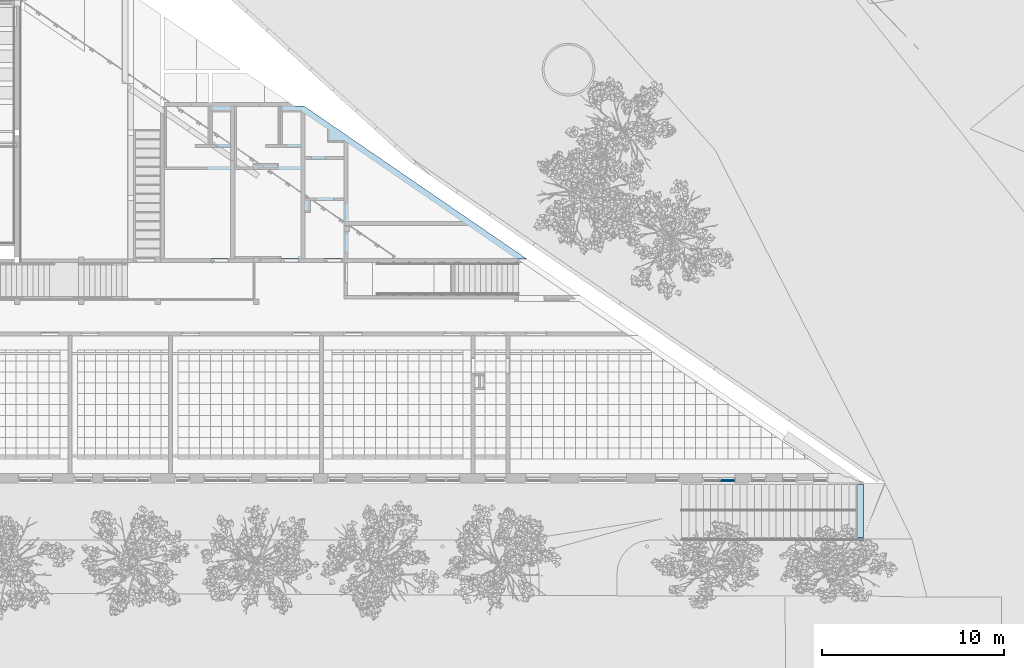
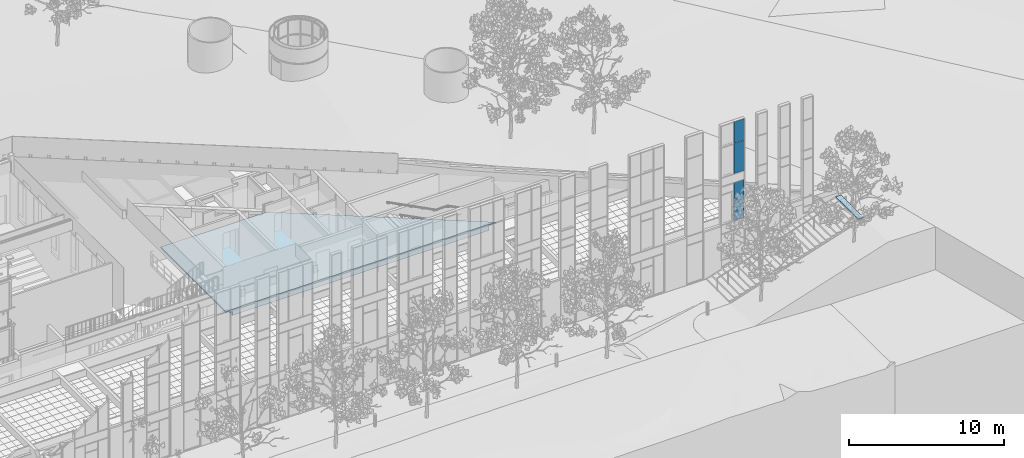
# One storey, part 106 of 246: 3 plates, 2 slabs, 1 element without a shape of its own.
"""IFC2X3 building model written with IfcOpenShell, lengths in millimetres."""

from ifc_helpers import new_model, entity, si_unit, converted_unit, derived_unit, money_unit, direction, frame, origin_with_axes, place, context, subcontext, project, spatial, faceted_brep, material, material_list, type_object, element, aggregate, save


model = new_model("IFC2X3")

# Units and contexts
model_context = context("Model", 3, precision=0.01, world=origin_with_axes(), true_north=direction((0.0, 1.0)))
body_context = subcontext(model_context, "Body", "Model", "MODEL_VIEW")
ifc_project = project(units=[si_unit("LENGTHUNIT", "METRE", prefix="MILLI"), si_unit("AREAUNIT", "SQUARE_METRE"), si_unit("VOLUMEUNIT", "CUBIC_METRE"), converted_unit("PLANEANGLEUNIT", "DEGREE", entity("IfcPlaneAngleMeasure", 0.0174532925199), si_unit("PLANEANGLEUNIT", "RADIAN"), dimensions=[0, 0, 0, 0, 0, 0, 0]), si_unit("SOLIDANGLEUNIT", "STERADIAN"), money_unit("EUR"), converted_unit("TIMEUNIT", "Year", entity("IfcTimeMeasure", 31556926.0), si_unit("TIMEUNIT", "SECOND"), dimensions=[0, 0, 1, 0, 0, 0, 0]), si_unit("MASSUNIT", "GRAM", prefix="KILO"), si_unit("THERMODYNAMICTEMPERATUREUNIT", "DEGREE_CELSIUS"), si_unit("LUMINOUSINTENSITYUNIT", "LUMEN"), si_unit("ENERGYUNIT", "JOULE", prefix="MEGA"), derived_unit("THERMALCONDUCTANCEUNIT", [(si_unit("POWERUNIT", "WATT"), 1), (si_unit("LENGTHUNIT", "METRE"), -1), (si_unit("THERMODYNAMICTEMPERATUREUNIT", "KELVIN"), -1)]), derived_unit("SPECIFICHEATCAPACITYUNIT", [(si_unit("ENERGYUNIT", "JOULE"), 1), (si_unit("MASSUNIT", "GRAM", prefix="KILO"), -1), (si_unit("THERMODYNAMICTEMPERATUREUNIT", "KELVIN"), -1)]), derived_unit("MASSDENSITYUNIT", [(si_unit("MASSUNIT", "GRAM", prefix="KILO"), 1), (si_unit("VOLUMEUNIT", "CUBIC_METRE"), -1)])], contexts=[model_context])

# Site, building, storey
site_placement = place(None, origin_with_axes())
site = spatial("IfcSite", under=ifc_project, at=site_placement, Name="L.Koidula tn 11b", CompositionType="ELEMENT")
building_placement = place(site_placement, origin_with_axes())
building = spatial("IfcBuilding", under=site, at=building_placement, Name="Rakvere Riigigümnaasium", CompositionType="ELEMENT")
storey_placement = place(building_placement, origin_with_axes())
storey = spatial("IfcBuildingStorey", under=building, at=storey_placement, Name="1.korrus 0,00", CompositionType="ELEMENT", Elevation=0.0)

# Curtain wall, plates
curtain_wall_type = type_object("IfcCurtainWallType", Name="Curtain Wall Type", PredefinedType="NOTDEFINED")
curtain_wall_placement = place(storey_placement, frame((96030.936158, 5111.45334637, 394.620798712), z_axis=(0.0, 0.0, 1.0), x_axis=(1.0, 0.0, 0.0)))
curtain_wall = element("IfcCurtainWall", 1, at=curtain_wall_placement, inside=storey, type_object=curtain_wall_type, Name="KLF-05-2C")
ifc_material_1 = material(Name="Klaaspakett 3x")
plate_type_1 = type_object("IfcPlateType", Name="Distinct Panel 776 x 1701 x 65", PredefinedType="CURTAIN_PANEL")
plate_1_placement = place(curtain_wall_placement, frame((1056.56395423, 0.0, 10320.1896012), z_axis=(0.0, 0.0, 1.0), x_axis=(-1.0, 0.0, 0.0)))
plate_1 = element("IfcPlate", 2, at=plate_1_placement, type_object=plate_type_1, material=ifc_material_1, Name="KLF-05-2C-Klaasid", ObjectType="CURTAIN_PANEL", context=body_context, shape_type="Brep", body=[
    faceted_brep([(-375.499878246, -32.5, 837.810415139), (400.500002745, -32.5, 837.810415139), (400.500002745, 32.5, 837.810415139), (-375.499878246, 32.5, 837.810415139), (-375.500112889, -32.5, -862.810417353), (400.500002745, -32.5, -862.810417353), (400.500002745, 32.5, -862.810417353), (-375.500112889, 32.5, -862.810417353)], [[[0, 1, 2, 3]], [[0, 4, 5, 1]], [[1, 5, 6, 2]], [[3, 2, 6, 7]], [[4, 0, 3, 7]], [[5, 4, 7, 6]]]),
])
ifc_material_2 = material(Name="Klaaspakett 3x ribikardinatega")
plate_type_2 = type_object("IfcPlateType", Name="776 x 628 x 54", PredefinedType="CURTAIN_PANEL")
plate_2_placement = place(curtain_wall_placement, frame((1056.56401141, 0.0, 5147.04585986), z_axis=(0.0, 0.0, 1.0), x_axis=(-1.0, 0.0, 0.0)))
plate_2 = element("IfcPlate", 3, at=plate_2_placement, type_object=plate_type_2, material=ifc_material_2, Name="KLF-63", ObjectType="CURTAIN_PANEL", context=body_context, shape_type="Brep", body=[
    faceted_brep([(-375.500036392, -27.0, 1206.33331992), (400.500037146, -27.0, 1206.33331992), (400.500037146, 27.0, 1206.33331992), (-375.500036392, 27.0, 1206.33331992), (-375.500036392, -27.0, 578.333351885), (-375.500036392, -27.0, -1784.66665326), (400.500037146, -27.0, -1784.66665326), (400.500037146, -27.0, 578.333351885), (400.500037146, 27.0, 578.333351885), (400.500037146, 27.0, -1784.66665326), (-375.500036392, 27.0, -1784.66665326), (-375.500036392, 27.0, 578.333351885)], [[[0, 1, 2, 3]], [[0, 4, 5, 6, 7, 1]], [[1, 7, 8, 2]], [[3, 2, 8, 9, 10, 11]], [[4, 0, 3, 11]], [[5, 4, 11, 10]], [[6, 5, 10, 9]], [[7, 6, 9, 8]]]),
])
plate_type_3 = type_object("IfcPlateType", Name="Distinct Panel 776 x 828 x 65", PredefinedType="CURTAIN_PANEL")
plate_3_placement = place(curtain_wall_placement, frame((974.064003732, 0.0, 8327.37919319), z_axis=(0.0, 0.0, 1.0), x_axis=(-1.0, 0.0, 0.0)))
plate_3 = element("IfcPlate", 4, at=plate_3_placement, type_object=plate_type_3, material=ifc_material_1, Name="KLF-05-2C-Klaasid", ObjectType="CURTAIN_PANEL", context=body_context, shape_type="Brep", body=[
    faceted_brep([(-458.00008341, -32.5, 1106.00000149), (318.000044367, -32.5, 1106.00000149), (318.000044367, 32.5, 1106.00000149), (-458.00008341, 32.5, 1106.00000149), (-458.00004802, -32.5, -1245.00000149), (318.000044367, -32.5, -1245.00000149), (318.000044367, -32.5, 277.999998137), (318.000044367, 32.5, 277.999998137), (318.000044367, 32.5, -1245.00000149), (-458.00004802, 32.5, -1245.00000149)], [[[0, 1, 2, 3]], [[0, 4, 5, 6, 1]], [[1, 6, 7, 2]], [[3, 2, 7, 8, 9]], [[4, 0, 3, 9]], [[5, 4, 9, 8]], [[6, 5, 8, 7]]]),
])
aggregate(curtain_wall, [plate_2, plate_3, plate_1])

# Slabs
ifc_material_3 = material(Name="Polükarbamiid-2")
ifc_material_4 = material(Name="Betoon - pealevalu")
ifc_material_5 = material(Name="Betoon element / plaat")
ifc_material_6 = material(Name="Soojustus - EPS")
ifc_material_7 = material(Name="Killustik")
ifc_material_list = material_list([ifc_material_3, ifc_material_4, ifc_material_5, ifc_material_6, ifc_material_6, ifc_material_7])
slab_type_1 = type_object("IfcSlabType", Name="PP-01-2 490", PredefinedType="NOTDEFINED")
slab_1_placement = place(storey_placement, frame((65899.9980729, 25697.9371768, 0.0), z_axis=(0.0, 0.0, 1.0), x_axis=(1.0, 0.0, 0.0)))
element("IfcSlab", 5, at=slab_1_placement, inside=storey, type_object=slab_type_1, material=ifc_material_list, Name="Põrand pinnasel", PredefinedType="NOTDEFINED", context=body_context, shape_type="Brep", body=[
    faceted_brep([(0.0, 0.0, 0.0), (0.0, -8387.48165424, 0.0), (19598.7078425, -8387.48165424, 0.0), (9545.09329946, -1491.93802509, 0.0), (7369.85094432, 0.0, 0.0), (0.0, -8387.48165424, -5.0), (0.0, 0.0, -5.0), (19598.7078425, -8387.48165424, -5.0), (9545.09329946, -1491.93802509, -5.0), (7369.85094432, 0.0, -5.0)], [[[0, 1, 2, 3, 4]], [[5, 1, 0, 6]], [[1, 5, 7, 2]], [[8, 3, 2, 7]], [[8, 9, 4, 3]], [[9, 6, 0, 4]], [[5, 6, 9, 8, 7]]]),
    faceted_brep([(0.0, 0.0, -5.0), (0.0, -8387.48165424, -5.0), (19598.7078425, -8387.48165424, -5.0), (9545.09329946, -1491.93802509, -5.0), (7369.85094432, 0.0, -5.0), (0.0, -8387.48165424, -10.0), (0.0, 0.0, -10.0), (19598.7078425, -8387.48165424, -10.0), (9545.09329946, -1491.93802509, -10.0), (7369.85094432, 0.0, -10.0)], [[[0, 1, 2, 3, 4]], [[5, 1, 0, 6]], [[1, 5, 7, 2]], [[8, 3, 2, 7]], [[8, 9, 4, 3]], [[9, 6, 0, 4]], [[5, 6, 9, 8, 7]]]),
    faceted_brep([(0.0, -8387.48165424, -10.0), (0.0, 0.0, -10.0), (0.0, 0.0, -90.0), (0.0, -8387.48165424, -90.0), (20129.0721042, -8387.48165424, -10.0), (7900.23796823, 0.0, -10.0), (7900.23796823, 0.0, -90.0), (20129.0721042, -8387.48165424, -90.0)], [[[0, 1, 2, 3]], [[0, 4, 5, 1]], [[1, 5, 6, 2]], [[6, 7, 3, 2]], [[4, 0, 3, 7]], [[5, 4, 7, 6]]]),
    faceted_brep([(0.0, -8387.48165424, -99.9999999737), (0.0, -99.0000021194, -99.9999999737), (300.0, -99.0000021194, -99.9999999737), (300.0, -8387.48165424, -99.9999999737), (0.0, -8387.48165424, -90.0), (0.0, -99.0000021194, -90.0), (7514.19130075, -99.0000021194, -90.0), (7514.19130075, -99.0000021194, -190.0), (300.0, -99.0000021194, -190.0), (300.0, -8387.48165424, -190.0), (19598.7078425, -8387.48165424, -190.0), (19598.7078425, -8387.48165424, -90.0), (9545.08631277, -1491.94799995, -90.0), (9545.08631277, -1491.94799995, -190.0)], [[[0, 1, 2, 3]], [[1, 0, 4, 5]], [[2, 1, 5, 6, 7, 8]], [[2, 8, 9, 3]], [[4, 0, 3, 9, 10, 11]], [[5, 4, 11, 12, 6]], [[6, 12, 13, 7]], [[9, 8, 7, 13, 10]], [[13, 12, 11, 10]]]),
    faceted_brep([(500.0, -8387.48165424, -290.0), (500.0, -299.000002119, -290.0), (7805.78797416, -299.000002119, -290.0), (9545.08631277, -1491.94799995, -290.0), (19598.7078425, -8387.48165424, -290.0), (500.0, -8387.48165424, -190.0), (500.0, -299.000002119, -190.0), (7805.78797416, -299.000002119, -190.0), (9545.09329946, -1491.93802509, -190.0), (19598.7078425, -8387.48165424, -190.0)], [[[0, 1, 2, 3, 4]], [[0, 5, 6, 1]], [[6, 7, 2, 1]], [[8, 3, 2, 7]], [[3, 8, 9, 4]], [[5, 0, 4, 9]], [[6, 5, 9, 8, 7]]]),
    faceted_brep([(500.0, -8387.48165424, -490.0), (500.0, -299.000002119, -490.0), (7805.78797416, -299.000002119, -490.0), (9545.08631277, -1491.94799995, -490.0), (19598.7078425, -8387.48165424, -490.0), (500.0, -8387.48165424, -290.0), (500.0, -299.000002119, -290.0), (7805.78797416, -299.000002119, -290.0), (9545.09329946, -1491.93802509, -290.0), (19598.7078425, -8387.48165424, -290.0)], [[[0, 1, 2, 3, 4]], [[0, 5, 6, 1]], [[6, 7, 2, 1]], [[8, 3, 2, 7]], [[3, 8, 9, 4]], [[5, 0, 4, 9]], [[6, 5, 9, 8, 7]]]),
])
ifc_material_8 = material(Name="Sillutiskivi")
slab_type_2 = type_object("IfcSlabType", Name="Sillutiskivi 80", PredefinedType="NOTDEFINED")
slab_2_placement = place(storey_placement, frame((104152.40065, 4886.05843431, 3180.0), z_axis=(0.0, 0.0, 1.0), x_axis=(1.0, 0.0, 0.0)))
element("IfcSlab", 6, at=slab_2_placement, inside=storey, type_object=slab_type_2, material=ifc_material_8, Name="Põrand pinnasel", PredefinedType="NOTDEFINED", context=body_context, shape_type="Brep", body=[
    faceted_brep([(80.0, 0.0, -80.0), (80.0, 0.0, -75.0), (5.00000000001, 0.0, -75.0), (5.00000000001, 0.0, 0.0), (400.0, 0.0, 0.0), (400.0, 0.0, -80.0), (80.0, -2899.60289544, -80.0), (80.0, -2899.60289544, -75.0), (5.00000000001, -2899.60289544, -75.0), (5.00000000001, -2899.60289544, 0.0), (400.0, -2899.60289544, 0.0), (400.0, -2899.60289544, -80.0)], [[[0, 1, 2, 3, 4, 5]], [[6, 7, 1, 0]], [[7, 8, 2, 1]], [[2, 8, 9, 3]], [[10, 4, 3, 9]], [[5, 4, 10, 11]], [[5, 11, 6, 0]], [[9, 8, 7, 6, 11, 10]]]),
])

save(model, "model.ifc")
